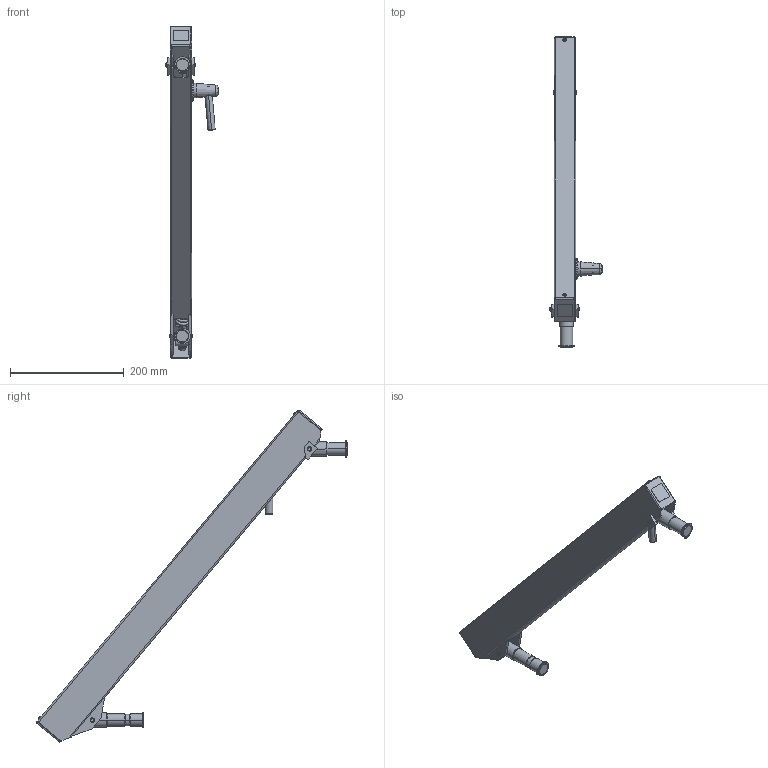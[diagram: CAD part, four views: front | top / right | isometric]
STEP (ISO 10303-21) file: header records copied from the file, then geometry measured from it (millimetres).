
FILE_DESCRIPTION (( 'STEP AP203' ), '1' );
FILE_NAME ('70-2445-00 REV AA, FLEX SECTION, 24in, 20-45 LB - DOWN.STEP', '2025-06-17T23:55:37', ( '' ), ( '' ), 'SwSTEP 2.0', 'SolidWorks 2025', '' );
FILE_SCHEMA (( 'CONFIG_CONTROL_DESIGN' ));
Length unit declared in the file: inch
Products named in the file (37): 11-0602-RX REV AA, HANDLE, BRAKE ASSEMBLY; 71-0031-RX REV AA, KNUCKLE, MOUNT_MACHINE; 011-033-00; 71-2401-BLKX REV AA, FLEX HOUSING, 24in, BLACK; 71-0028-RX REV AA, TAB, MOUNT_MACHINE; 71-0037-75 REV 1, PIVOT, THREADED, SS_MACHINE; 71-2033-99 REV AA, BOLT, ADJUSTING, 12.120; 004-144-00; 004-050-00, WASHER, FIBER, .032 THK, .265ID; 70-2445-00 REV AA,  FLEX SECTION, 24in, 20-45 LB - DOWN; 71-1051-RX REV AA, SPRING BLOCK; 71-2400-RX REV AA, HOUSING, 24in FLEX; 016-070-00, BEARING, PLASTIC, .5ID x .625 OD x .75; 11-0027-RX REV AA, PLASTIC DISC, BRAKE ASSEMBLY_MACHINE; 010-012-00, RETAINING RING, EXTERNAL, .875in SHAFT; 71-0040-RX REV AA, BRAKE BLOCK, WIDE_MACHINE; 11-020-RX REV AA, PIN, KNURLED, 1.0LG x .25OD; 71-3032-RX REV AA, SPRING ROD, 24in FLEX; 005-084-00, BOLT, 1''4-20x2.75; 013-036-00, SPRING, GREEN, 1x8_ISO425203; 002-041-00_002-041-00; 71-0030-RX REV AA, KNUCKLE, LOAD_MACHINE; 71-0057-WDX REV AA, GUIDE WELDMENT, 24in DOUBLE SPRING GUIDE; 71-0058-RX REV AA, BAR, GUIDE, 24in DOUBLE SPRING; 71-0972-99 REV 1, END CAP, FLEX; 71-0060-00; 006-004-00_006-004-00; 71-0029-RX REV AA, TAB, LOAD; 71-0071-RX REV AA, AXLE PIN, LONG; 71-0059-RX REV AA, BUSHING, GUIDE, 24in DOUBLE SPRING; 006-059-00; 11-0650-00 REV AA, BRAKE HANDLE ASSEMBLY; 71-0038-RX REV AA, PIVOT, KNUCKLE, ELECTROLESS NICKEL; 010-011-00, RETAINING RING, EXT, .250 SHAFT_010-011-00; 71-0070-RX REV AA, AXLE PIN, SHORT; 007-036-00, SHSS, 1''4-28, .25L_007-036-00; 11-0601-99 REV AA, CONICAL KNOB, BRAKE ASSEMBLY
Assembly tree (61 placements, depth 3):
  70-2445-00 REV AA,  FLEX SECTION, 24in, 20-45 LB - DOWN
    71-0031-RX REV AA, KNUCKLE, MOUNT_MACHINE
    71-1051-RX REV AA, SPRING BLOCK
    71-3032-RX REV AA, SPRING ROD, 24in FLEX
    71-0030-RX REV AA, KNUCKLE, LOAD_MACHINE
    71-0038-RX REV AA, PIVOT, KNUCKLE, ELECTROLESS NICKEL
    71-0037-75 REV 1, PIVOT, THREADED, SS_MACHINE
    71-0040-RX REV AA, BRAKE BLOCK, WIDE_MACHINE
    71-2033-99 REV AA, BOLT, ADJUSTING, 12.120
    71-2401-BLKX REV AA, FLEX HOUSING, 24in, BLACK
      71-2400-RX REV AA, HOUSING, 24in FLEX
      71-0029-RX REV AA, TAB, LOAD  x2
      71-0028-RX REV AA, TAB, MOUNT_MACHINE  x2
    71-0070-RX REV AA, AXLE PIN, SHORT
    71-0071-RX REV AA, AXLE PIN, LONG
    71-0972-99 REV 1, END CAP, FLEX  x2
    11-0027-RX REV AA, PLASTIC DISC, BRAKE ASSEMBLY_MACHINE
    71-0057-WDX REV AA, GUIDE WELDMENT, 24in DOUBLE SPRING GUIDE
      71-0058-RX REV AA, BAR, GUIDE, 24in DOUBLE SPRING
      71-0059-RX REV AA, BUSHING, GUIDE, 24in DOUBLE SPRING  x2
    71-0060-00  x2
    11-0650-00 REV AA, BRAKE HANDLE ASSEMBLY
      11-0601-99 REV AA, CONICAL KNOB, BRAKE ASSEMBLY
      11-0602-RX REV AA, HANDLE, BRAKE ASSEMBLY
      11-0027-RX REV AA, PLASTIC DISC, BRAKE ASSEMBLY_MACHINE
      005-084-00, BOLT, 1''4-20x2.75
    010-012-00, RETAINING RING, EXTERNAL, .875in SHAFT  x2
    013-036-00, SPRING, GREEN, 1x8_ISO425203  x2
    010-011-00, RETAINING RING, EXT, .250 SHAFT_010-011-00  x4
    007-036-00, SHSS, 1''4-28, .25L_007-036-00
    016-070-00, BEARING, PLASTIC, .5ID x .625 OD x .75  x2
    004-050-00, WASHER, FIBER, .032 THK, .265ID  x8
    011-033-00  x2
    11-020-RX REV AA, PIN, KNURLED, 1.0LG x .25OD  x2
    004-144-00  x3
    006-059-00
    006-004-00_006-004-00  x2
    002-041-00_002-041-00  x2
Bounding box: 91.63 x 545.81 x 583.12 mm (x, y, z)
Volume: 699230.7 mm3; surface area: 477807.7 mm2
Topology: 61 solids, 61 shells, 1193 faces, 2894 edges, 1822 vertices
Faces by surface type: cylinder 488, plane 404, cone 217, torus 45, bspline 33, sphere 6
Entity records: 65344 total; most frequent: CARTESIAN_POINT 41759, ORIENTED_EDGE 3964, DIRECTION 3955, EDGE_CURVE 1982, AXIS2_PLACEMENT_3D 1519, VERTEX_POINT 1246, VECTOR 917, LINE 917
